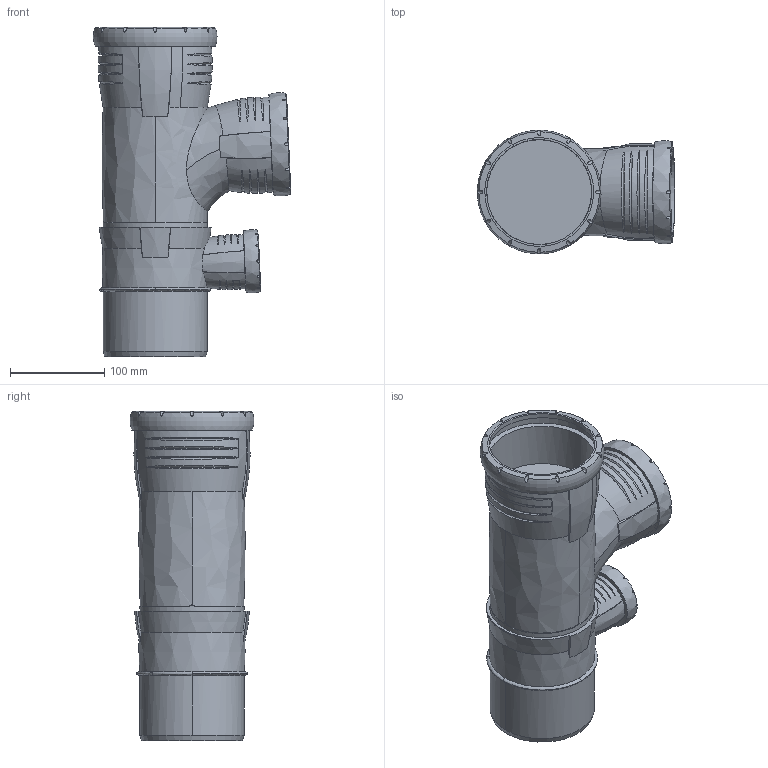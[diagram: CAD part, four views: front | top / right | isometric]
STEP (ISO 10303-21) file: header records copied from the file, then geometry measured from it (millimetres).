
FILE_DESCRIPTION(/* description */ (''),/* implementation_level */ '2;1');
FILE_NAME(/* name */ 'H:\Geberit-Teile\Export\KombiBogAbzw\stp\393556.stp',/* time_stamp */ '2017-10-18T09:55:11+02:00',/* author */ ('seihe2'),/* organization */ (''),/* preprocessor_version */ 'ST-DEVELOPER v15.2',/* originating_system */ 'Autodesk Inventor 2014',/* authorisation */ '');
FILE_SCHEMA (('AUTOMOTIVE_DESIGN { 1 0 10303 214 3 1 1 }'));
Length unit declared in the file: millimetre
Products named in the file (1): 393556
Bounding box: 208.91 x 130.97 x 348.6 mm (x, y, z)
Volume: 2234873 mm3; surface area: 317912 mm2
Topology: 1 solids, 1 shells, 250 faces, 661 edges, 431 vertices
Faces by surface type: bspline 148, cone 34, cylinder 24, torus 20, plane 16, sphere 8
Full cylindrical faces by diameter (mm): 51 x1, 60.1 x1, 91.2 x1, 100.2 x1, 101.2 x1, 110.2 x1, 111 x1, 111.3 x1, 121.5 x1
Entity records: 15651 total; most frequent: CARTESIAN_POINT 10302, ORIENTED_EDGE 1238, DIRECTION 795, EDGE_CURVE 619, VERTEX_POINT 417, AXIS2_PLACEMENT_3D 368, EDGE_LOOP 296, B_SPLINE_CURVE_WITH_KNOTS 289
